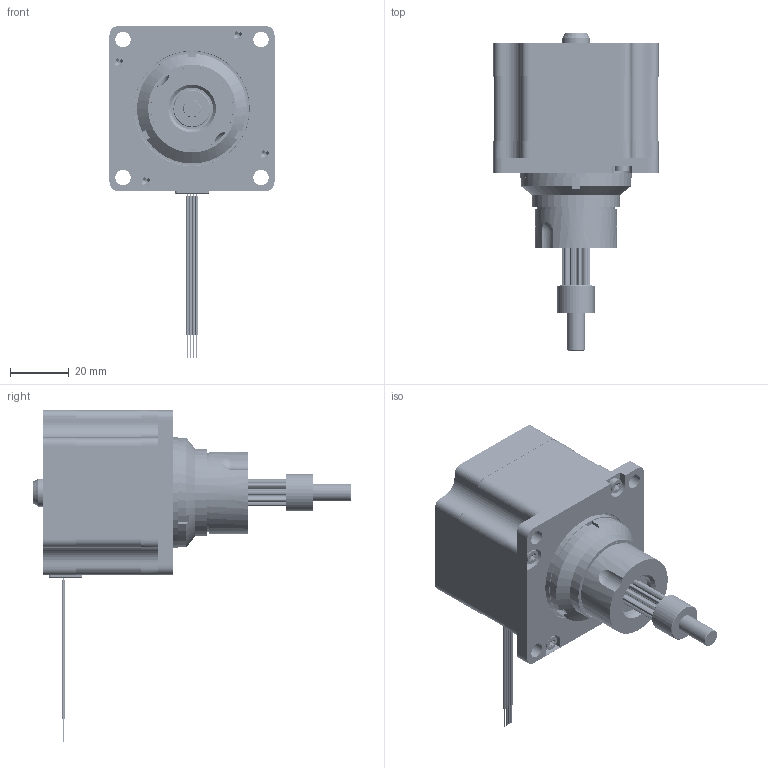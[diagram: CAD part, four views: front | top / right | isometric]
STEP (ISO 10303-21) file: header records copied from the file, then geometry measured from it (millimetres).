
FILE_DESCRIPTION( ('This file contains a STEP AP42 implementation' ,'as created by ZW3D STEP Interface translator.' ,'') ,'2;1' );
FILE_NAME( '57CA4X-XX-XXX-302.stp' ,'26 1 4. 81713', (''), ('ZWCAD Software Co.'), 'Version 1.0', 'ZW3D to STEP translator', '' );
FILE_SCHEMA(('AUTOMOTIVE_DESIGN { 1 0 10303 214 1 1 1 1 }'));
Length unit declared in the file: millimetre
Products named in the file (1): 0
Bounding box: 56.4 x 108.34 x 113.4 mm (x, y, z)
Volume: 110433.8 mm3; surface area: 243299.9 mm2
Topology: 104 solids, 108 shells, 29468 faces, 87118 edges, 57922 vertices
Faces by surface type: cylinder 18057, plane 10995, torus 220, cone 113, bspline 81, sphere 2
Full cylindrical faces by diameter (mm): 2.5 x8, 3.18 x4, 3.3 x352, 4 x3, 4.2 x5, 5.2 x4, 5.21 x4, 6 x4, 6.05 x1, 9.53 x2, 10.3 x2, 12 x3, 12.7 x1, 14.2 x1, 14.27 x1, 14.3 x2, 14.986 x32, 15 x1, 15.5 x1, 16 x2, 21.95 x1, 26.7 x1, 27 x2, 28 x5, 28.5 x1, 30 x1, 32.2 x1, 34.82 x2, 38.1 x1
Entity records: 1041169 total; most frequent: CARTESIAN_POINT 187123, DIRECTION 182005, ORIENTED_EDGE 174210, EDGE_CURVE 87113, AXIS2_PLACEMENT_3D 65920, VERTEX_POINT 57922, VECTOR 50165, LINE 50165
